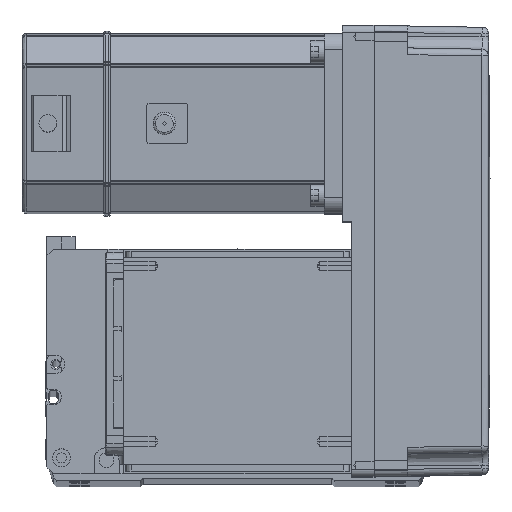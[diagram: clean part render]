
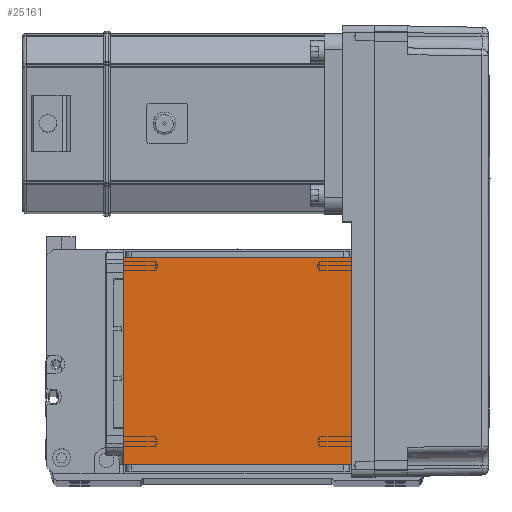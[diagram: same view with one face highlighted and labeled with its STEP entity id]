
A CAD part, top view. The second image highlights one B-rep face of the part: STEP entity #25161.
In plain terms, the highlighted planar face has unit normal (0, 0, 1).
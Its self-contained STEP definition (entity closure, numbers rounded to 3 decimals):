
#147 = ORIENTED_EDGE ( 'NONE', *, *, #31387, .F. ) ;
#1679 = DIRECTION ( 'NONE',  ( 0., -1., 0. ) ) ;
#2383 = LINE ( 'NONE', #52408, #16882 ) ;
#8456 = DIRECTION ( 'NONE',  ( 0., 0., 1. ) ) ;
#9582 = VECTOR ( 'NONE', #34895, 1000. ) ;
#9795 = VECTOR ( 'NONE', #37245, 1000. ) ;
#10397 = AXIS2_PLACEMENT_3D ( 'NONE', #31138, #8456, #22047 ) ;
#13490 = PLANE ( 'NONE',  #10397 ) ;
#14607 = DIRECTION ( 'NONE',  ( -1., 0., 0. ) ) ;
#15957 = CARTESIAN_POINT ( 'NONE',  ( -50.5, 111.5, 115. ) ) ;
#16882 = VECTOR ( 'NONE', #1679, 1000. ) ;
#20044 = VERTEX_POINT ( 'NONE', #15957 ) ;
#22047 = DIRECTION ( 'NONE',  ( 1., 0., 0. ) ) ;
#22823 = VECTOR ( 'NONE', #14607, 1000. ) ;
#23616 = LINE ( 'NONE', #46656, #9795 ) ;
#23937 = EDGE_CURVE ( 'NONE', #54058, #34429, #23616, .T. ) ;
#25161 = ADVANCED_FACE ( 'NONE', ( #52572 ), #13490, .T. ) ;
#29871 = LINE ( 'NONE', #35503, #9582 ) ;
#30783 = LINE ( 'NONE', #56642, #22823 ) ;
#31008 = CARTESIAN_POINT ( 'NONE',  ( 50.5, 20., 115. ) ) ;
#31138 = CARTESIAN_POINT ( 'NONE',  ( 0., 0., 115. ) ) ;
#31387 = EDGE_CURVE ( 'NONE', #20044, #34429, #29871, .T. ) ;
#32018 = VERTEX_POINT ( 'NONE', #32448 ) ;
#32448 = CARTESIAN_POINT ( 'NONE',  ( -50.5, 20., 115. ) ) ;
#33727 = EDGE_CURVE ( 'NONE', #54058, #32018, #30783, .T. ) ;
#34429 = VERTEX_POINT ( 'NONE', #53281 ) ;
#34891 = EDGE_CURVE ( 'NONE', #20044, #32018, #2383, .T. ) ;
#34895 = DIRECTION ( 'NONE',  ( 1., 0., 0. ) ) ;
#35503 = CARTESIAN_POINT ( 'NONE',  ( -70.004, 111.5, 115. ) ) ;
#37245 = DIRECTION ( 'NONE',  ( 0., 1., 0. ) ) ;
#46656 = CARTESIAN_POINT ( 'NONE',  ( 50.5, 122., 115. ) ) ;
#48349 = ORIENTED_EDGE ( 'NONE', *, *, #34891, .T. ) ;
#51929 = EDGE_LOOP ( 'NONE', ( #147, #48349, #59161, #52719 ) ) ;
#52408 = CARTESIAN_POINT ( 'NONE',  ( -50.5, 122., 115. ) ) ;
#52572 = FACE_OUTER_BOUND ( 'NONE', #51929, .T. ) ;
#52719 = ORIENTED_EDGE ( 'NONE', *, *, #23937, .T. ) ;
#53281 = CARTESIAN_POINT ( 'NONE',  ( 50.5, 111.5, 115. ) ) ;
#54058 = VERTEX_POINT ( 'NONE', #31008 ) ;
#56642 = CARTESIAN_POINT ( 'NONE',  ( -70.004, 20., 115. ) ) ;
#59161 = ORIENTED_EDGE ( 'NONE', *, *, #33727, .F. ) ;
